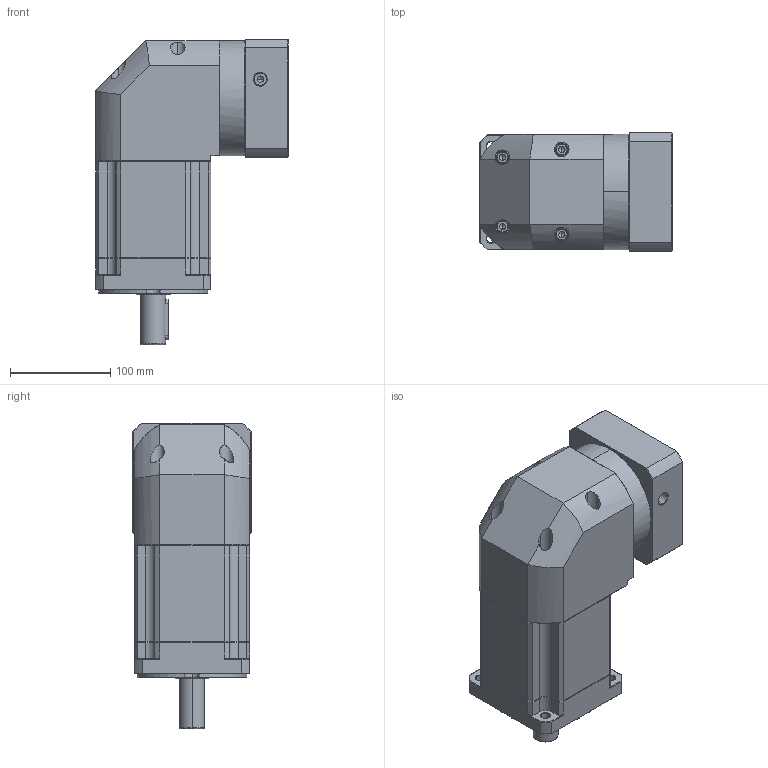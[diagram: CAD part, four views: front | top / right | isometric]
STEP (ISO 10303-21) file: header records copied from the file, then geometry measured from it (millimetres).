
FILE_DESCRIPTION (( 'STEP AP214' ), '1' );
FILE_NAME ('ZBR115A-D25-L3-P2-19-95-115-M8.step', '2023-08-26T12:34:16', ( '' ), ( '' ), 'SwSTEP 2.0', 'SolidWorks 2016', '' );
FILE_SCHEMA (( 'AUTOMOTIVE_DESIGN' ));
Length unit declared in the file: millimetre
Products named in the file (1): ZBR115A-D25-L3-P2-19-95-115-M8
Bounding box: 192.4 x 118 x 305 mm (x, y, z)
Volume: 3620470.9 mm3; surface area: 270714.1 mm2
Topology: 6 solids, 6 shells, 2378 faces, 6242 edges, 3968 vertices
Faces by surface type: plane 1139, cylinder 439, bspline 424, cone 368, torus 8
Entity records: 128031 total; most frequent: CARTESIAN_POINT 46867, ORIENTED_EDGE 12424, DIRECTION 9797, EDGE_CURVE 6212, LINE 3989, VECTOR 3989, VERTEX_POINT 3968, AXIS2_PLACEMENT_3D 2904
